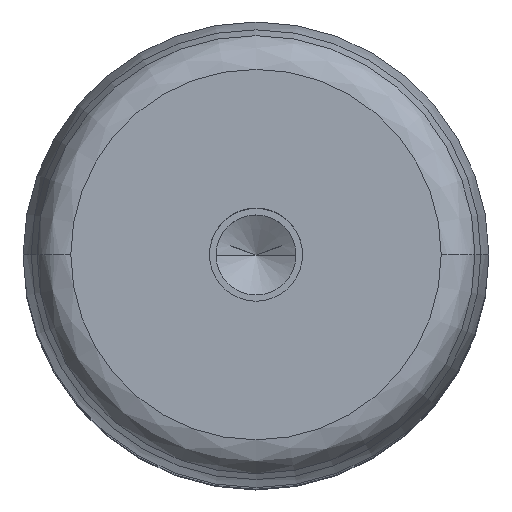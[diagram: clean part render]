
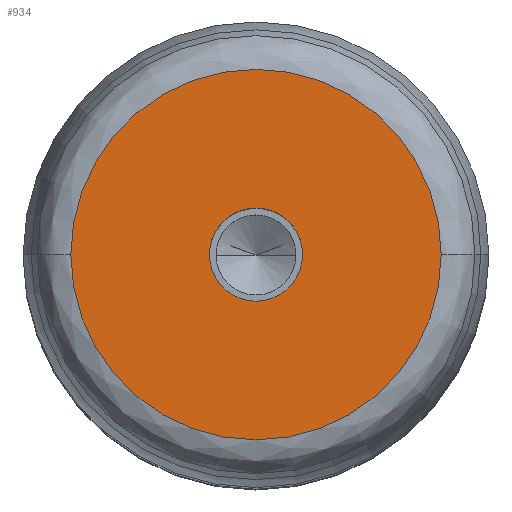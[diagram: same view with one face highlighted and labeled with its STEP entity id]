
A CAD part, top view. The second image highlights one B-rep face of the part: STEP entity #934.
In plain terms, the highlighted planar face has unit normal (0, 0, 1).
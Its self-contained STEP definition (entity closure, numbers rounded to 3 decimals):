
#149=VERTEX_POINT(' ',#150);
#150=CARTESIAN_POINT('',(23.868,0.,200.));
#151=VERTEX_POINT(' ',#152);
#152=CARTESIAN_POINT('',(-23.868,0.,200.));
#153=VERTEX_POINT(' ',#154);
#154=CARTESIAN_POINT('',(-6.,0.,200.));
#155=VERTEX_POINT(' ',#156);
#156=CARTESIAN_POINT('',(6.,0.,200.));
#469=CIRCLE('',#470,23.868);
#470=AXIS2_PLACEMENT_3D('',#471,#472,#473);
#471=CARTESIAN_POINT('',(0.,0.,200.));
#472=DIRECTION('',(0.,0.,1.));
#473=DIRECTION('',(0.,1.,0.));
#474=EDGE_CURVE(' ',#149,#151,#469,.F.);
#481=CIRCLE('',#482,23.868);
#482=AXIS2_PLACEMENT_3D('',#483,#484,#485);
#483=CARTESIAN_POINT('',(0.,0.,200.));
#484=DIRECTION('',(0.,0.,1.));
#485=DIRECTION('',(0.,-1.,0.));
#486=EDGE_CURVE(' ',#151,#149,#481,.F.);
#487=CIRCLE('',#488,6.);
#488=AXIS2_PLACEMENT_3D('',#489,#490,#491);
#489=CARTESIAN_POINT('',(0.,0.,200.));
#490=DIRECTION('',(0.,0.,-1.));
#491=DIRECTION('',(0.,-1.,0.));
#492=EDGE_CURVE(' ',#155,#153,#487,.F.);
#493=CIRCLE('',#494,6.);
#494=AXIS2_PLACEMENT_3D('',#495,#496,#497);
#495=CARTESIAN_POINT('',(0.,0.,200.));
#496=DIRECTION('',(0.,0.,-1.));
#497=DIRECTION('',(0.,1.,0.));
#498=EDGE_CURVE(' ',#153,#155,#493,.F.);
#921=ORIENTED_EDGE('',*,*,#474,.F.);
#922=ORIENTED_EDGE('',*,*,#486,.F.);
#923=EDGE_LOOP('',(#921,#922));
#924=FACE_OUTER_BOUND('',#923,.T.);
#925=ORIENTED_EDGE('',*,*,#492,.F.);
#926=ORIENTED_EDGE('',*,*,#498,.F.);
#927=EDGE_LOOP('',(#925,#926));
#928=FACE_BOUND('',#927,.T.);
#929=PLANE('',#930);
#930=AXIS2_PLACEMENT_3D('',#931,#932,#933);
#931=CARTESIAN_POINT('',(0.,0.,200.));
#932=DIRECTION('',(0.,0.,1.));
#933=DIRECTION('',(0.,-1.,0.));
#934=ADVANCED_FACE('',(#924,#928),#929,.T.);
